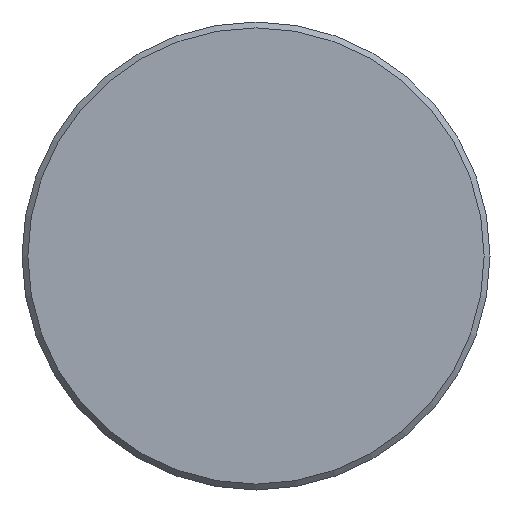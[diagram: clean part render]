
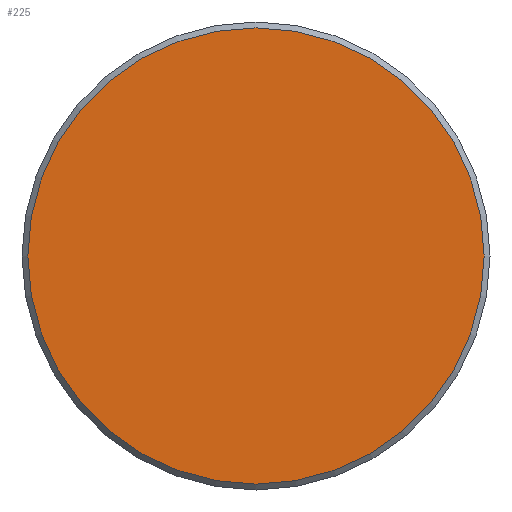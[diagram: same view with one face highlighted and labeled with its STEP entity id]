
A CAD part, front view. The second image highlights one B-rep face of the part: STEP entity #225.
In plain terms, the highlighted planar face has unit normal (0, -1, 0).
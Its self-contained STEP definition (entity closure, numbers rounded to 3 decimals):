
#225 = ADVANCED_FACE( '', ( #429 ), #430, .F. );
#429 = FACE_OUTER_BOUND( '', #611, .T. );
#430 = PLANE( '', #612 );
#611 = EDGE_LOOP( '', ( #969 ) );
#612 = AXIS2_PLACEMENT_3D( '', #970, #971, #972 );
#969 = ORIENTED_EDGE( '', *, *, #1124, .T. );
#970 = CARTESIAN_POINT( '', ( 19.5, 0., 0. ) );
#971 = DIRECTION( '', ( 0., 1., 0. ) );
#972 = DIRECTION( '', ( 0., 0., 1. ) );
#1124 = EDGE_CURVE( '', #1318, #1318, #1319, .T. );
#1318 = VERTEX_POINT( '', #1782 );
#1319 = CIRCLE( '', #1783, 19.5 );
#1782 = CARTESIAN_POINT( '', ( 0., 0., -19.5 ) );
#1783 = AXIS2_PLACEMENT_3D( '', #1915, #1916, #1917 );
#1915 = CARTESIAN_POINT( '', ( 0., 0., 0. ) );
#1916 = DIRECTION( '', ( 0., -1., 0. ) );
#1917 = DIRECTION( '', ( 0., 0., -1. ) );
